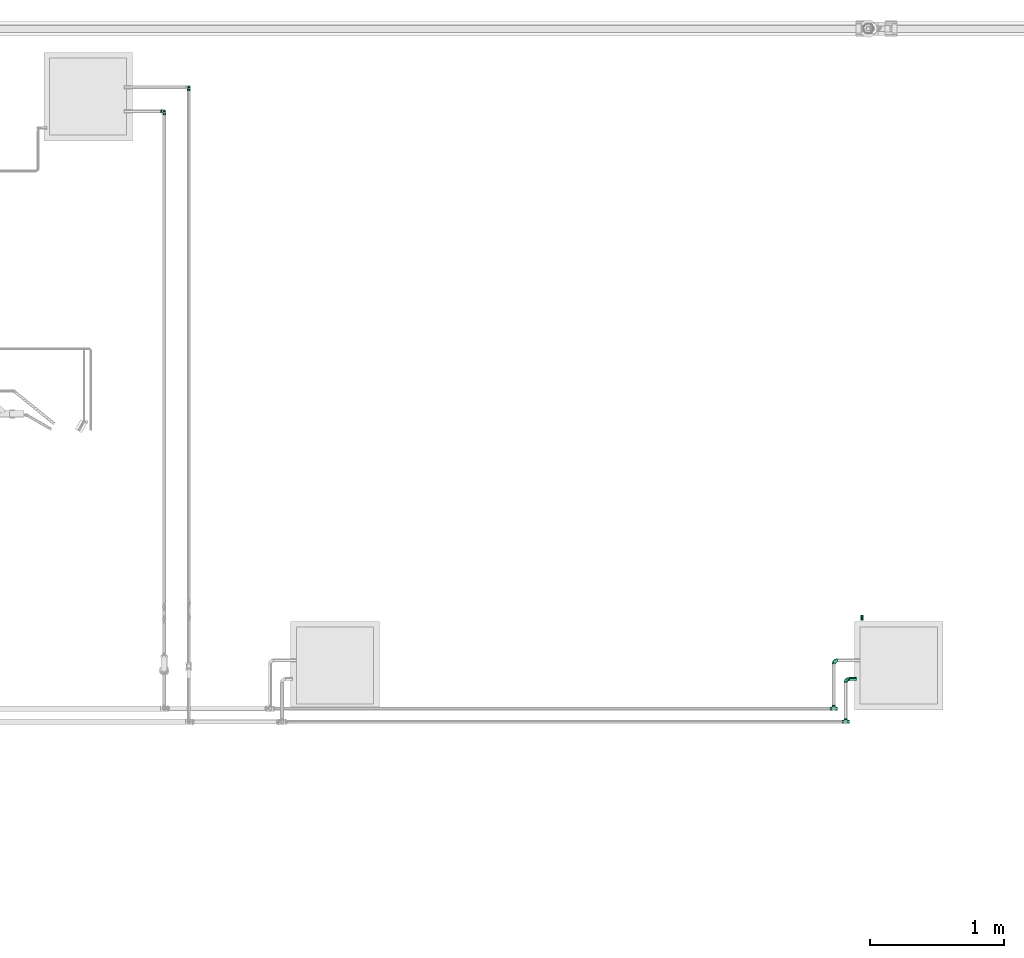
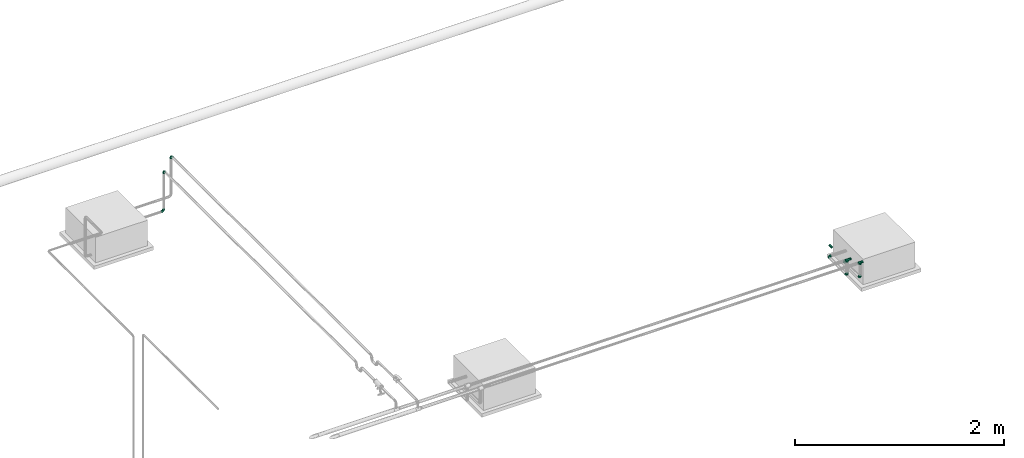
# One storey, part 22 of 35: 9 flow fittings, 2 flow segments.
"""IFC2X3 building model written with IfcOpenShell, lengths in millimetres."""

from ifc_helpers import new_model, entity, si_unit, converted_unit, derived_unit, direction, frame, origin_with_axes, origin_2d_with_axis, place, context, subcontext, project, spatial, hollow_circle, extrude, open_shell, surface_model, source, transform, mapped, type_object, element, save


model = new_model("IFC2X3")

# Units and contexts
model_context = context("Model", 3, precision=0.01, world=frame((0.0, 4.29681676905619e-09, 0.0)), true_north=direction((4.01073788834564e-13, 1.0)))
plan_context = context("Plan", 3, precision=0.01, world=frame((0.0, 4.29681676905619e-09, 0.0)), true_north=direction((4.01073788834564e-13, 1.0)))
body_context = subcontext(model_context, "Body", "Model", "MODEL_VIEW")
ifc_project = project(units=[converted_unit("PLANEANGLEUNIT", "DEGREE", entity("IfcPositiveLengthMeasure", 0.0174532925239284), si_unit("PLANEANGLEUNIT", "RADIAN"), dimensions=[0, 0, 0, 0, 0, 0, 0]), si_unit("AREAUNIT", "SQUARE_METRE"), si_unit("LENGTHUNIT", "METRE", prefix="MILLI"), si_unit("MASSUNIT", "GRAM", prefix="KILO"), si_unit("POWERUNIT", "WATT"), si_unit("PRESSUREUNIT", "PASCAL"), si_unit("FORCEUNIT", "NEWTON", prefix="KILO"), si_unit("ELECTRICVOLTAGEUNIT", "VOLT"), si_unit("ELECTRICCURRENTUNIT", "AMPERE"), si_unit("THERMODYNAMICTEMPERATUREUNIT", "DEGREE_CELSIUS"), si_unit("TIMEUNIT", "SECOND"), si_unit("VOLUMEUNIT", "CUBIC_METRE"), derived_unit("LINEARVELOCITYUNIT", [(si_unit("LENGTHUNIT", "METRE"), 1), (si_unit("TIMEUNIT", "SECOND"), -1)]), derived_unit("VOLUMETRICFLOWRATEUNIT", [(si_unit("VOLUMEUNIT", "CUBIC_METRE"), 1), (si_unit("TIMEUNIT", "SECOND"), -1)]), derived_unit("THERMALTRANSMITTANCEUNIT", [(si_unit("POWERUNIT", "WATT"), 1), (si_unit("THERMODYNAMICTEMPERATUREUNIT", "KELVIN"), -1), (si_unit("AREAUNIT", "SQUARE_METRE"), -1)]), derived_unit("SOUNDPRESSUREUNIT", [(si_unit("PRESSUREUNIT", "PASCAL"), 1)])], contexts=[model_context, plan_context])

# Site, building, storey
site_placement = place(None, frame((0.0, -4.29681676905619e-09, 0.0), z_axis=(0.0, 0.0, 1.0), x_axis=(1.0, 0.0, 0.0)))
site = spatial("IfcSite", under=ifc_project, at=site_placement, Name="ENGM", CompositionType="ELEMENT")
building_placement = place(site_placement, frame((0.0, 4.29681676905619e-09, 0.0), z_axis=(0.0, 0.0, 1.0), x_axis=(1.0, 0.0, 0.0)))
building = spatial("IfcBuilding", under=site, at=building_placement, Name="TH", CompositionType="ELEMENT")
storey_placement = place(building_placement, frame((0.0, 0.0, 210200.0), z_axis=(0.0, 0.0, 1.0), x_axis=(1.0, 0.0, 0.0)))
storey = spatial("IfcBuildingStorey", under=building, at=storey_placement, Name="Nivå F - 0,7 m", CompositionType="ELEMENT", Elevation=210200.0)

# Flow fittings
pipe_fitting_type_1 = type_object("IfcPipeFittingType", Name="magi_pipe_fe_elbow_short_001", PredefinedType="BEND")
shared_shape_1 = source(origin_with_axes(), body_context, "Body", "SurfaceModel", [
    surface_model("IfcShellBasedSurfaceModel", [(-26.8, 0.0, -13.4), (-26.8, -12.94341, -3.46818), (-26.8, 3.46818, -12.94341), (-26.8, 6.7, -11.60474), (-26.8, 9.47523, -9.47523), (-26.8, 11.60474, -6.7), (-26.8, 11.60474, 6.7), (-26.8, -9.47523, -9.47523), (-26.8, -6.7, -11.60474), (-26.8, -3.46818, -12.94341), (-26.8, -11.60474, -6.7), (-26.8, -13.4, 0.0), (-26.8, -12.94341, 3.46818), (-26.8, 12.94341, -3.46818), (-26.8, 12.94341, 3.46818), (-26.8, 3.46818, 12.94341), (-26.8, 6.7, 11.60474), (-26.8, 9.47523, 9.47523), (-26.8, -6.7, 11.60474), (-26.8, -11.60474, 6.7), (-26.8, -9.47523, 9.47523), (-26.8, -3.46818, 12.94341), (-26.8, 0.0, 13.4), (-26.8, 13.4, 0.0), (-3.46818, 26.8, -12.94341), (12.94341, 26.8, -3.46818), (0.0, 26.8, -13.4), (-9.47523, 26.8, -9.47523), (-6.7, 26.8, -11.60474), (-11.60474, 26.8, -6.7), (-11.60474, 26.8, 6.7), (6.7, 26.8, -11.60474), (9.47523, 26.8, -9.47523), (3.46818, 26.8, -12.94341), (11.60474, 26.8, -6.7), (12.94341, 26.8, 3.46818), (13.4, 26.8, 0.0), (-13.4, 26.8, 0.0), (-12.94341, 26.8, -3.46818), (-12.94341, 26.8, 3.46818), (-9.47523, 26.8, 9.47523), (-6.7, 26.8, 11.60474), (-3.46818, 26.8, 12.94341), (6.7, 26.8, 11.60474), (9.47523, 26.8, 9.47523), (11.60474, 26.8, 6.7), (3.46818, 26.8, 12.94341), (0.0, 26.8, 13.4), (-17.94383, -11.72186, 4.19396), (-19.61933, -10.40522, 7.51874), (-14.00394, -9.97131, 0.0), (-10.88146, -9.75217, 2.96415), (5.6402, 4.14256, 4.06277), (2.9355, 3.86758, 7.99817), (-0.16552, -0.70254, 6.90229), (-11.69279, -8.47867, 6.74741), (-3.60975, -5.23517, 4.12915), (-20.40197, -11.68565, 0.0), (6.07727, 10.7767, 9.16668), (7.71917, 17.5318, 9.98024), (3.23022, 10.34855, 11.14395), (-17.5318, -7.71917, 9.98024), (-19.6814, -5.06542, 12.05518), (-20.47091, -1.77513, 13.17083), (-18.76435, 2.05404, 13.37716), (-10.34855, -3.23022, 11.14395), (-13.34095, -0.12025, 12.98799), (-20.6562, 5.25542, 12.65822), (-21.01515, 11.15223, 8.78653), (-19.1981, 14.0055, 6.12639), (-23.45804, 12.58298, 5.55254), (-13.79572, 19.62699, 6.0655), (-4.65712, 13.17755, 13.37596), (-9.92557, 9.92557, 13.07441), (-7.97904, 5.85569, 13.33097), (-14.12498, 14.96497, 9.49183), (-23.18377, 8.11481, 10.91864), (-3.49778, 8.97497, 13.15743), (-6.65819, 2.45826, 12.5129), (-1.36893, 7.23965, 12.31444), (-22.3163, 13.71444, 3.37662), (-20.76788, 15.89859, 0.0), (-5.00198, 23.11411, 12.55149), (-1.83653, 20.04451, 13.36709), (5.06542, 19.6814, 12.05518), (-4.60225, -3.19632, 8.30444), (-2.39362, 2.39362, 10.95564), (1.77513, 20.47091, 13.17083), (10.40522, 19.61933, 7.51874), (8.47867, 11.69279, 6.74741), (11.72186, 17.94383, 4.19396), (-10.7767, -6.07727, 9.16668), (-14.71477, 20.20527, 3.11661), (-18.32912, 15.92283, 3.19527), (9.75217, 10.88146, 2.96415), (9.97131, 14.00394, 0.0), (11.68565, 20.40197, 0.0), (-17.32477, 17.32477, 0.0), (8.01422, 6.7, 0.0), (-11.0099, 17.80242, 10.25412), (-8.46783, 20.75346, 11.10693), (-11.06207, 21.36651, 8.74797), (-10.13559, 14.48567, 11.94159), (-5.79525, 18.15733, 12.76163), (-14.31139, 12.02432, 11.13575), (-6.7, -8.01422, 0.0), (-14.72492, 5.73985, 13.1602), (-13.14892, 3.28357, 13.39428), (-14.24576, 9.09225, 12.39421), (-7.80572, 13.90987, 12.83655), (0.12025, 13.34095, 12.98799), (-18.45241, 9.09615, 11.28418), (-1.02036, 0.84565, 9.15855), (-3.66591, -4.13183, 6.30134), (-3.02144, -4.33567, 0.0), (1.56761, -1.1228, 3.23127), (-15.89859, 20.76788, 0.0), (4.33567, 3.02144, 0.0), (0.65711, -0.65711, 0.0), (-21.21323, 1.69434, -13.35639), (-11.59215, 19.61477, -8.94181), (-19.9553, -12.05444, -4.41231), (-20.61911, 5.26132, -12.65979), (-18.29002, 15.89425, -3.37935), (-10.94714, -3.38176, -11.24231), (-11.6358, -0.16715, -12.74497), (-5.38395, -0.22423, -10.97991), (-19.45447, 8.78609, -11.20697), (-21.18665, 11.10723, -8.76769), (8.05635, 19.80434, -10.14754), (-16.16073, 12.27967, -10.10626), (-10.65974, -9.81032, -2.24682), (-4.63434, -6.26604, -3.21731), (-12.41035, 15.57424, -10.31822), (-9.54276, 16.38525, -11.6371), (-12.38435, 12.38435, -11.76567), (-1.18054, -2.52878, -5.66699), (1.17703, 2.36499, -8.51656), (4.94456, 3.94062, -5.27361), (-13.23013, 7.7548, -12.95755), (-18.92609, -10.30887, -7.4546), (-19.80434, -8.05635, -10.14754), (-5.46999, 19.49566, -12.70683), (12.05444, 19.9553, -4.41231), (-22.63124, -5.28269, -12.19553), (-11.57403, -7.91736, -7.4927), (-10.00514, -5.4662, -9.37392), (0.56412, 6.29454, -11.17498), (0.16715, 11.6358, -12.74497), (2.76952, 11.43973, -11.70622), (-22.71135, 13.83144, -2.294), (-13.13887, 21.26515, -5.84046), (-14.02683, 21.74629, -2.98452), (10.30887, 18.92609, -7.4546), (-4.73052, 4.73052, -12.6532), (-16.28385, 15.93209, -6.57302), (-1.69434, 21.21323, -13.35639), (-8.4106, 21.03687, -11.08508), (1.68957, 19.74249, -13.15499), (5.28269, 22.63124, -12.19553), (-19.74249, -1.68957, -13.15499), (-16.96978, -4.62448, -11.91765), (-3.16773, 14.76219, -13.39711), (-7.24575, 7.81916, -13.39239), (-7.92886, 12.7032, -13.00116), (-6.57993, -6.26304, -6.05124), (9.46363, 9.95483, -2.39006), (6.59847, 4.89531, -2.6225), (0.29079, -2.47661, -2.876), (-21.42347, 13.17132, -5.65321), (9.35918, 11.66841, -5.08525), (8.33374, 12.94014, -7.69724), (5.4662, 10.00514, -9.37392), (4.62448, 16.96978, -11.91765), (-3.89324, -2.60816, -8.35445), (5.97121, 7.49007, -7.29975), (-14.76219, 3.16773, -13.39711), (-15.36238, 22.06238, 0.0), (-11.66841, -9.35918, -5.08525), (3.63632, 1.19488, -3.35093), (-14.94382, 15.17624, -8.6945)], [open_shell([[[0, 1, 2]], [[3, 2, 4]], [[5, 2, 1]], [[4, 2, 5]], [[5, 1, 6]], [[7, 1, 8]], [[0, 9, 8]], [[10, 1, 7]], [[8, 1, 0]], [[11, 12, 1]], [[13, 5, 14]], [[5, 6, 14]], [[1, 15, 6]], [[15, 16, 17]], [[6, 15, 17]], [[1, 18, 15]], [[19, 20, 12]], [[18, 12, 20]], [[18, 21, 15]], [[18, 1, 12]], [[15, 21, 22]], [[14, 23, 13]], [[24, 25, 26]], [[27, 24, 28]], [[25, 24, 29]], [[29, 24, 27]], [[30, 25, 29]], [[31, 25, 32]], [[31, 33, 26]], [[32, 25, 34]], [[26, 25, 31]], [[25, 35, 36]], [[37, 29, 38]], [[39, 30, 29]], [[30, 40, 25]], [[40, 41, 42]], [[42, 25, 40]], [[43, 25, 42]], [[35, 44, 45]], [[44, 35, 43]], [[42, 46, 43]], [[35, 25, 43]], [[47, 46, 42]], [[39, 29, 37]], [[48, 49, 19]], [[48, 50, 51]], [[52, 53, 54]], [[55, 51, 56]], [[49, 20, 19]], [[57, 48, 12]], [[58, 59, 60]], [[61, 18, 20]], [[61, 62, 18]], [[22, 63, 64]], [[62, 65, 66]], [[59, 44, 43]], [[22, 21, 63]], [[67, 16, 15]], [[68, 69, 70]], [[30, 39, 71]], [[72, 73, 74]], [[69, 68, 75]], [[22, 64, 15]], [[16, 76, 17]], [[6, 17, 68]], [[77, 78, 79]], [[80, 81, 23]], [[42, 82, 83]], [[43, 84, 59]], [[85, 86, 65]], [[46, 47, 87]], [[88, 89, 90]], [[91, 65, 61]], [[47, 42, 83]], [[71, 92, 93]], [[90, 94, 95]], [[84, 43, 46]], [[88, 90, 45]], [[59, 84, 60]], [[35, 45, 90]], [[75, 71, 69]], [[18, 62, 21]], [[90, 96, 35]], [[97, 81, 93]], [[94, 98, 95]], [[92, 97, 93]], [[50, 48, 57]], [[70, 14, 6]], [[99, 100, 101]], [[40, 101, 100]], [[41, 40, 100]], [[102, 103, 100]], [[103, 72, 83]], [[82, 100, 103]], [[82, 42, 41]], [[99, 104, 102]], [[23, 14, 80]], [[67, 15, 64]], [[51, 50, 105]], [[48, 19, 12]], [[49, 55, 61]], [[45, 44, 88]], [[89, 52, 94]], [[106, 107, 74]], [[108, 67, 106]], [[40, 30, 101]], [[103, 102, 109]], [[103, 109, 72]], [[87, 83, 110]], [[76, 68, 17]], [[68, 111, 104]], [[65, 62, 61]], [[63, 62, 66]], [[91, 61, 55]], [[65, 86, 78]], [[87, 84, 46]], [[110, 79, 60]], [[110, 60, 84]], [[86, 112, 60]], [[55, 49, 48]], [[61, 20, 49]], [[44, 59, 88]], [[89, 88, 59]], [[106, 67, 64]], [[76, 67, 111]], [[53, 52, 89]], [[112, 86, 85]], [[56, 113, 55]], [[112, 54, 53]], [[58, 89, 59]], [[56, 51, 105]], [[114, 115, 56]], [[14, 70, 80]], [[69, 71, 93]], [[37, 116, 92]], [[92, 116, 97]], [[30, 71, 101]], [[75, 101, 71]], [[99, 102, 100]], [[108, 104, 111]], [[106, 74, 73]], [[110, 83, 72]], [[78, 74, 66]], [[72, 74, 77]], [[83, 87, 47]], [[84, 87, 110]], [[62, 63, 21]], [[64, 63, 66]], [[12, 11, 57]], [[96, 90, 95]], [[96, 36, 35]], [[115, 117, 52]], [[56, 105, 114]], [[55, 48, 51]], [[89, 94, 90]], [[52, 98, 94]], [[106, 64, 107]], [[108, 106, 73]], [[102, 108, 73]], [[67, 108, 111]], [[102, 104, 108]], [[68, 104, 75]], [[64, 66, 107]], [[66, 74, 107]], [[65, 78, 66]], [[79, 78, 86]], [[60, 79, 86]], [[77, 79, 110]], [[72, 77, 110]], [[78, 77, 74]], [[67, 76, 16]], [[68, 76, 111]], [[100, 82, 41]], [[83, 82, 103]], [[68, 70, 6]], [[80, 69, 93]], [[69, 80, 70]], [[80, 93, 81]], [[55, 85, 91]], [[85, 65, 91]], [[60, 53, 58]], [[53, 89, 58]], [[54, 112, 85]], [[60, 112, 53]], [[85, 113, 54]], [[113, 115, 54]], [[55, 113, 85]], [[115, 113, 56]], [[71, 39, 92]], [[115, 114, 118]], [[37, 92, 39]], [[101, 75, 99]], [[99, 75, 104]], [[102, 73, 109]], [[72, 109, 73]], [[54, 115, 52]], [[117, 115, 118]], [[117, 98, 52]], [[2, 119, 0]], [[29, 27, 120]], [[121, 57, 1]], [[3, 122, 2]], [[97, 123, 81]], [[124, 125, 126]], [[127, 4, 128]], [[32, 129, 31]], [[127, 128, 130]], [[131, 132, 105]], [[133, 134, 135]], [[127, 3, 4]], [[136, 137, 138]], [[139, 122, 127]], [[4, 5, 128]], [[10, 140, 121]], [[141, 140, 7]], [[24, 142, 28]], [[95, 143, 96]], [[144, 8, 9]], [[145, 141, 146]], [[25, 36, 96]], [[147, 148, 149]], [[140, 10, 7]], [[23, 81, 150]], [[130, 133, 135]], [[151, 152, 38]], [[153, 34, 143]], [[147, 154, 148]], [[38, 29, 151]], [[120, 155, 151]], [[32, 153, 129]], [[26, 156, 24]], [[24, 156, 142]], [[143, 34, 25]], [[27, 28, 157]], [[123, 152, 155]], [[158, 33, 159]], [[144, 160, 161]], [[122, 3, 127]], [[148, 162, 158]], [[157, 28, 142]], [[162, 163, 164]], [[159, 33, 31]], [[165, 136, 132]], [[34, 153, 32]], [[166, 98, 167]], [[160, 9, 0]], [[161, 160, 125]], [[95, 166, 143]], [[50, 131, 105]], [[121, 1, 10]], [[168, 114, 132]], [[150, 169, 13]], [[167, 98, 117]], [[33, 158, 26]], [[164, 142, 162]], [[133, 157, 134]], [[7, 8, 141]], [[165, 145, 146]], [[170, 171, 153]], [[129, 172, 173]], [[126, 137, 174]], [[175, 137, 172]], [[148, 158, 173]], [[156, 158, 162]], [[149, 172, 147]], [[148, 154, 163]], [[119, 160, 0]], [[176, 163, 125]], [[176, 125, 160]], [[125, 154, 126]], [[169, 128, 5]], [[127, 130, 135]], [[139, 127, 135]], [[119, 122, 176]], [[120, 151, 29]], [[152, 97, 177]], [[142, 164, 134]], [[120, 27, 157]], [[152, 37, 38]], [[81, 123, 150]], [[123, 155, 169]], [[152, 123, 97]], [[140, 178, 121]], [[121, 178, 131]], [[144, 141, 8]], [[146, 141, 161]], [[25, 96, 143]], [[170, 153, 143]], [[129, 153, 171]], [[159, 129, 173]], [[137, 147, 172]], [[126, 154, 147]], [[172, 171, 175]], [[174, 137, 136]], [[137, 126, 147]], [[126, 146, 124]], [[117, 118, 179]], [[179, 138, 167]], [[128, 169, 155]], [[5, 13, 169]], [[57, 121, 50]], [[57, 11, 1]], [[122, 119, 2]], [[160, 119, 176]], [[158, 156, 26]], [[142, 156, 162]], [[162, 148, 163]], [[139, 135, 164]], [[125, 163, 154]], [[139, 163, 176]], [[163, 139, 164]], [[122, 139, 176]], [[155, 180, 128]], [[180, 120, 133]], [[180, 133, 130]], [[157, 133, 120]], [[142, 134, 157]], [[164, 135, 134]], [[128, 180, 130]], [[120, 180, 155]], [[152, 151, 155]], [[37, 152, 177]], [[169, 150, 123]], [[23, 150, 13]], [[121, 131, 50]], [[178, 165, 132]], [[178, 132, 131]], [[168, 132, 136]], [[145, 165, 178]], [[174, 165, 146]], [[178, 140, 145]], [[141, 145, 140]], [[179, 136, 138]], [[170, 166, 167]], [[168, 179, 118]], [[170, 167, 138]], [[143, 166, 170]], [[95, 98, 166]], [[117, 179, 167]], [[136, 179, 168]], [[129, 159, 31]], [[158, 159, 173]], [[160, 144, 9]], [[141, 144, 161]], [[175, 170, 138]], [[129, 171, 172]], [[170, 175, 171]], [[137, 175, 138]], [[148, 173, 149]], [[172, 149, 173]], [[165, 174, 136]], [[126, 174, 146]], [[146, 161, 124]], [[125, 124, 161]], [[114, 168, 118]], [[114, 105, 132]]])]),
])
for number, where, z_axis, x_axis, name in (
    (1, (905026.07965, 481295.36097, 2800.0), (1.0, 0.0, 0.0), (0.0, 3.999999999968e-06, -0.999999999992), "magi_pipe_fe_elbow_short_001"),
    (2, (905026.07965, 481655.36097, 2800.0), (0.0, 0.0, 1.0), (-1.0, 0.0, 0.0), "magi_pipe_fe_elbow_short_001"),
    (3, (905114.78846, 481196.37011, 2800.0), (1.0, 0.0, 0.0), (0.0, 3.999999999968e-06, -0.999999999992), "magi_pipe_fe_elbow_short_001"),
    (4, (905114.78846, 481516.37011, 2800.0), (0.0, 0.0, 1.0), (-1.0, 0.0, 0.0), "magi_pipe_fe_elbow_short_001"),
    (5, (900221.2, 485925.17011, 3070.04999999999), (1.0, 0.0, 0.0), (0.0, 0.0, 1.0), "magi_pipe_fe_elbow_short_001"),
    (6, (900037.00487, 485745.36097, 2600.0), (0.0, -1.0, 0.0), (1.0, 0.0, 0.0), "magi_pipe_fe_elbow_short_001"),
    (7, (900037.00487, 485745.36097, 3070.04999999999), (-1.0, 0.0, 0.0), (0.0, 1.0, 0.0), "magi_pipe_fe_elbow_short_001"),
):
    element("IfcFlowFitting", number, at=place(storey_placement, frame(where, z_axis=z_axis, x_axis=x_axis)), inside=storey, type_object=pipe_fitting_type_1, Name=name, context=body_context, shape_type="MappedRepresentation", body=[
        mapped(shared_shape_1, transform((0.0, 0.0, 0.0), scale=1.0)),
    ])
pipe_fitting_type_2 = type_object("IfcPipeFittingType", Name="magi_pipe_fe_tee_centric_90_NOR", PredefinedType="JUNCTION")
shared_shape_2 = source(origin_with_axes(), body_context, "Body", "SurfaceModel", [
    surface_model("IfcShellBasedSurfaceModel", [(-26.8, -13.4, 0.0), (-26.8, -12.94341, 3.46818), (-26.8, -12.94341, -3.46818), (-26.8, 6.7, -11.60474), (-26.8, 3.46818, -12.94341), (-26.8, 0.0, -13.4), (-26.8, 9.47523, -9.47523), (-26.8, 12.94341, -3.46818), (-26.8, 11.60474, -6.7), (-26.8, -11.60474, -6.7), (-26.8, -6.7, -11.60474), (-26.8, -9.47523, -9.47523), (-26.8, -3.46818, -12.94341), (-26.8, 11.60474, 6.7), (-26.8, 12.94341, 3.46818), (-26.8, 6.7, 11.60474), (-26.8, 9.47523, 9.47523), (-26.8, 3.46818, 12.94341), (-26.8, -9.47523, 9.47523), (-26.8, -6.7, 11.60474), (-26.8, -11.60474, 6.7), (-26.8, -3.46818, 12.94341), (-26.8, 0.0, 13.4), (-26.8, 13.4, 0.0), (26.8, 9.47523, -9.47523), (26.8, 0.0, -13.4), (26.8, 3.46818, -12.94341), (26.8, 6.7, -11.60474), (26.8, -12.94341, 3.46818), (26.8, 11.60474, -6.7), (26.8, -11.60474, -6.7), (26.8, -12.94341, -3.46818), (26.8, -3.46818, -12.94341), (26.8, -9.47523, -9.47523), (26.8, -6.7, -11.60474), (26.8, -13.4, 0.0), (26.8, 12.94341, -3.46818), (26.8, 13.4, 0.0), (26.8, 12.94341, 3.46818), (26.8, 11.60474, 6.7), (26.8, 6.7, 11.60474), (26.8, 9.47523, 9.47523), (26.8, 0.0, 13.4), (26.8, 3.46818, 12.94341), (26.8, -11.60474, 6.7), (26.8, -6.7, 11.60474), (26.8, -9.47523, 9.47523), (26.8, -3.46818, 12.94341), (12.91394, -12.91394, 3.57635), (13.4, -13.4, 0.0), (11.59778, -11.59778, 6.71205), (7.51045, -7.51045, 11.09744), (9.72367, -9.72367, 9.2201), (-13.4, -13.4, 0.0), (-12.91394, -12.91394, 3.57635), (-11.59778, -11.59778, 6.71205), (-9.72367, -9.72367, 9.2201), (-7.51045, -7.51045, 11.09744), (-5.09751, -5.09751, 12.39256), (5.09751, -5.09751, 12.39256), (2.57313, -2.57313, 13.15063), (0.0, 0.0, 13.4), (-2.57313, -2.57313, 13.15063), (2.57313, -2.57313, -13.15063), (0.0, 0.0, -13.4), (-2.57313, -2.57313, -13.15063), (-5.09751, -5.09751, -12.39256), (5.09751, -5.09751, -12.39256), (7.51045, -7.51045, -11.09744), (9.72367, -9.72367, -9.2201), (11.59778, -11.59778, -6.71205), (12.91394, -12.91394, -3.57635), (-7.51045, -7.51045, -11.09744), (-9.72367, -9.72367, -9.2201), (-12.91394, -12.91394, -3.57635), (-11.59778, -11.59778, -6.71205), (9.47523, -20.1, -9.47523), (0.0, -20.1, -13.4), (3.46818, -20.1, -12.94341), (6.7, -20.1, -11.60474), (11.60474, -20.1, -6.7), (12.94341, -20.1, -3.46818), (-12.94341, -20.1, 3.46818), (-12.94341, -20.1, -3.46818), (-3.46818, -20.1, -12.94341), (-9.47523, -20.1, -9.47523), (-6.7, -20.1, -11.60474), (-11.60474, -20.1, -6.7), (-13.4, -20.1, 0.0), (13.4, -20.1, 0.0), (12.94341, -20.1, 3.46818), (11.60474, -20.1, 6.7), (6.7, -20.1, 11.60474), (9.47523, -20.1, 9.47523), (3.46818, -20.1, 12.94341), (-9.47523, -20.1, 9.47523), (-11.60474, -20.1, 6.7), (-6.7, -20.1, 11.60474), (-3.46818, -20.1, 12.94341), (0.0, -20.1, 13.4)], [open_shell([[[0, 1, 2]], [[3, 4, 5]], [[6, 3, 5]], [[7, 8, 6]], [[9, 6, 5]], [[6, 2, 1]], [[10, 11, 12]], [[9, 12, 11]], [[12, 9, 5]], [[9, 2, 6]], [[7, 6, 1]], [[7, 13, 14]], [[7, 15, 13]], [[7, 1, 15]], [[16, 13, 15]], [[17, 15, 1]], [[18, 19, 20]], [[1, 20, 21]], [[19, 21, 20]], [[22, 1, 21]], [[22, 17, 1]], [[7, 14, 23]], [[24, 25, 26]], [[24, 26, 27]], [[28, 24, 29]], [[25, 24, 30]], [[28, 31, 24]], [[32, 33, 34]], [[33, 32, 30]], [[25, 30, 32]], [[24, 31, 30]], [[31, 28, 35]], [[36, 28, 29]], [[37, 38, 39]], [[37, 39, 40]], [[37, 40, 28]], [[40, 39, 41]], [[42, 40, 43]], [[44, 45, 46]], [[47, 44, 28]], [[44, 47, 45]], [[47, 28, 42]], [[28, 40, 42]], [[37, 28, 36]], [[28, 44, 48]], [[35, 28, 49]], [[49, 28, 48]], [[44, 50, 48]], [[46, 45, 51]], [[50, 44, 52]], [[51, 52, 46]], [[52, 44, 46]], [[53, 54, 1]], [[53, 1, 0]], [[1, 54, 20]], [[54, 55, 20]], [[56, 57, 18]], [[18, 20, 56]], [[18, 57, 19]], [[56, 20, 55]], [[19, 57, 58]], [[51, 45, 59]], [[60, 42, 61]], [[59, 47, 60]], [[47, 59, 45]], [[60, 47, 42]], [[61, 42, 43]], [[39, 38, 14]], [[16, 40, 41]], [[13, 41, 39]], [[43, 40, 15]], [[23, 38, 37]], [[62, 61, 22]], [[62, 21, 58]], [[21, 62, 22]], [[58, 21, 19]], [[61, 17, 22]], [[43, 17, 61]], [[15, 17, 43]], [[15, 40, 16]], [[13, 16, 41]], [[14, 13, 39]], [[38, 23, 14]], [[8, 29, 24]], [[23, 37, 36]], [[24, 27, 3]], [[29, 7, 36]], [[25, 32, 63]], [[25, 64, 26]], [[64, 25, 63]], [[27, 26, 4]], [[64, 4, 26]], [[8, 24, 6]], [[7, 29, 8]], [[24, 3, 6]], [[7, 23, 36]], [[65, 66, 12]], [[5, 4, 64]], [[5, 65, 12]], [[66, 10, 12]], [[4, 3, 27]], [[5, 64, 65]], [[63, 32, 67]], [[34, 33, 68]], [[69, 68, 33]], [[30, 70, 69]], [[69, 33, 30]], [[34, 68, 67]], [[31, 35, 49]], [[31, 71, 30]], [[71, 31, 49]], [[30, 71, 70]], [[72, 10, 66]], [[72, 11, 10]], [[11, 72, 73]], [[11, 73, 9]], [[74, 53, 2]], [[75, 74, 9]], [[74, 2, 9]], [[2, 53, 0]], [[75, 9, 73]], [[34, 67, 32]], [[76, 77, 78]], [[76, 78, 79]], [[76, 80, 81]], [[77, 76, 82]], [[82, 83, 77]], [[84, 85, 86]], [[84, 77, 85]], [[87, 85, 77]], [[77, 83, 87]], [[83, 82, 88]], [[82, 76, 81]], [[89, 90, 91]], [[91, 92, 81]], [[92, 82, 81]], [[92, 91, 93]], [[82, 92, 94]], [[82, 95, 96]], [[95, 82, 97]], [[82, 98, 97]], [[98, 82, 99]], [[82, 94, 99]], [[81, 89, 91]], [[82, 53, 88]], [[96, 54, 82]], [[57, 95, 97]], [[97, 98, 58]], [[96, 95, 56]], [[99, 62, 98]], [[54, 53, 82]], [[55, 54, 96]], [[57, 56, 95]], [[62, 58, 98]], [[57, 97, 58]], [[55, 96, 56]], [[99, 61, 62]], [[51, 92, 93]], [[59, 94, 92]], [[90, 89, 49]], [[93, 91, 52]], [[90, 48, 91]], [[48, 90, 49]], [[61, 99, 60]], [[59, 60, 94]], [[48, 50, 91]], [[52, 51, 93]], [[50, 52, 91]], [[59, 92, 51]], [[60, 99, 94]], [[81, 49, 89]], [[80, 71, 81]], [[68, 76, 79]], [[79, 78, 67]], [[80, 76, 69]], [[77, 63, 78]], [[71, 49, 81]], [[70, 71, 80]], [[68, 69, 76]], [[63, 67, 78]], [[68, 79, 67]], [[70, 80, 69]], [[77, 64, 63]], [[86, 66, 84]], [[85, 72, 86]], [[83, 88, 53]], [[85, 87, 73]], [[83, 74, 87]], [[74, 83, 53]], [[64, 77, 65]], [[66, 65, 84]], [[74, 75, 87]], [[73, 72, 85]], [[75, 73, 87]], [[66, 86, 72]], [[65, 77, 84]]])]),
])
for number, where, z_axis, x_axis, name in (
    (8, (905026.07965, 481295.36097, 2978.79999999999), (0.0, 1.0, 0.0), (-1.0, 0.0, 0.0), "magi_pipe_fe_tee_centric_90_NOR"),
    (9, (905114.78846, 481196.37011, 2978.79999999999), (0.0, 1.0, 0.0), (-1.0, 0.0, 0.0), "magi_pipe_fe_tee_centric_90_NOR"),
):
    element("IfcFlowFitting", number, at=place(storey_placement, frame(where, z_axis=z_axis, x_axis=x_axis)), inside=storey, type_object=pipe_fitting_type_2, Name=name, context=body_context, shape_type="MappedRepresentation", body=[
        mapped(shared_shape_2, transform((0.0, 0.0, 0.0), scale=1.0)),
    ])

# Flow segments
pipe_segment_type_1 = type_object("IfcPipeSegmentType", Name="Kobberrør", PredefinedType="RIGIDSEGMENT")
shared_shape_3 = source(origin_with_axes(), body_context, "Body", "SweptSolid", [
    extrude(hollow_circle(Radius=11.0, WallThickness=2.0, at=origin_2d_with_axis()), frame((0.0, 0.0, 0.0), z_axis=(1.0, 0.0, 0.0), x_axis=(0.0, 1.0, 0.0)), (0.0, 0.0, 1.0), 43.0),
])
flow_segment_1_placement = place(storey_placement, frame((905235.85557, 481994.52123, 2654.87142000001), z_axis=(0.0, -0.00979999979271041, 0.999951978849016), x_axis=(0.0, -0.999951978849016, -0.00979999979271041)))
element("IfcFlowSegment", 10, at=flow_segment_1_placement, inside=storey, type_object=pipe_segment_type_1, Name="Kobberrør", context=body_context, shape_type="MappedRepresentation", body=[
    mapped(shared_shape_3, transform((0.0, 0.0, 0.0), scale=1.0)),
])
pipe_segment_type_2 = type_object("IfcPipeSegmentType", Name="Stålrør normaltykke", PredefinedType="RIGIDSEGMENT")
shared_shape_4 = source(origin_with_axes(), body_context, "Body", "SweptSolid", [
    extrude(hollow_circle(Radius=13.3, WallThickness=2.0, at=origin_2d_with_axis()), frame((0.0, 0.0, 0.0), z_axis=(1.0, 0.0, 0.0), x_axis=(0.0, 1.0, 0.0)), (0.0, 0.0, 1.0), 53.2),
])
flow_segment_2_placement = place(storey_placement, frame((905141.58846, 481516.37011, 2800.0), z_axis=(0.0, 0.0, 1.0), x_axis=(1.0, 0.0, 0.0)))
element("IfcFlowSegment", 11, at=flow_segment_2_placement, inside=storey, type_object=pipe_segment_type_2, Name="Stålrør normaltykke", context=body_context, shape_type="MappedRepresentation", body=[
    mapped(shared_shape_4, transform((0.0, 0.0, 0.0), scale=1.0)),
])

save(model, "model.ifc")
